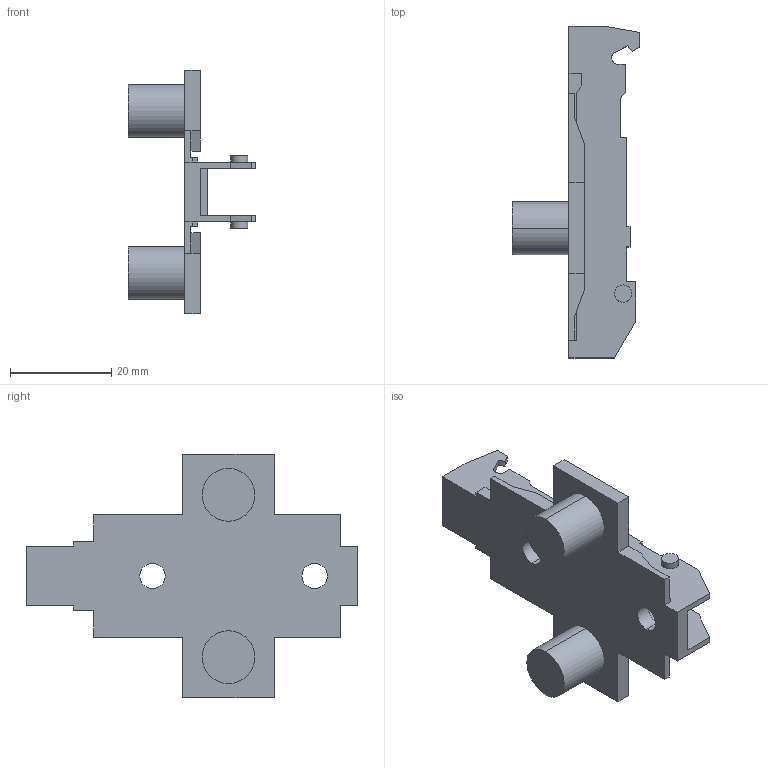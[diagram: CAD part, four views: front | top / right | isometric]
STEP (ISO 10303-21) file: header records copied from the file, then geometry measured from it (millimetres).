
FILE_DESCRIPTION (( 'STEP AP214' ), '1' );
FILE_NAME ('1D_Kreuzmontageplatte 37_32_10mm_Dübel_3,5.step', '2010-11-18T10:19:14', ( 'grass' ), ( '' ), 'SwSTEP 2.0', 'SolidWorks 2010', '' );
FILE_SCHEMA (( 'AUTOMOTIVE_DESIGN' ));
Length unit declared in the file: millimetre
Products named in the file (1): 1D_Kreuzmontageplatte 37_32_10mm_Dübel_3,5
Bounding box: 25.2 x 65.5 x 48 mm (x, y, z)
Volume: 8100.5 mm3; surface area: 7606.2 mm2
Topology: 1 solids, 1 shells, 114 faces, 314 edges, 208 vertices
Faces by surface type: plane 88, cylinder 22, cone 4
Entity records: 3636 total; most frequent: CARTESIAN_POINT 637, ORIENTED_EDGE 628, DIRECTION 592, EDGE_CURVE 314, VECTOR 266, LINE 266, VERTEX_POINT 208, AXIS2_PLACEMENT_3D 163
